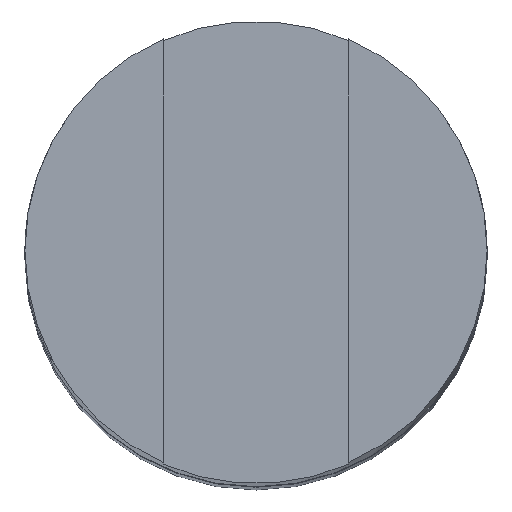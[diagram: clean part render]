
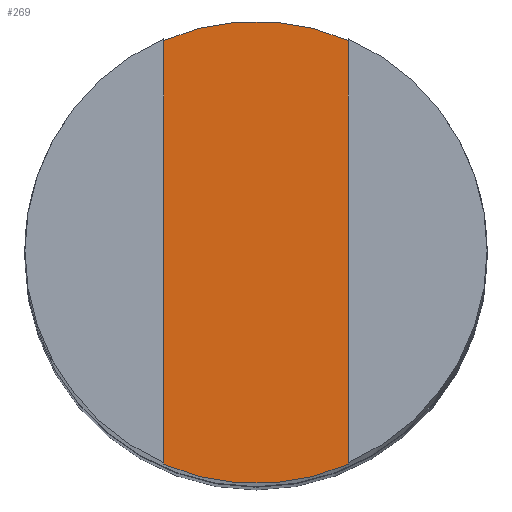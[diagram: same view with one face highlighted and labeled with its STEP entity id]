
A CAD part, top view. The second image highlights one B-rep face of the part: STEP entity #269.
In plain terms, the highlighted planar face has unit normal (0, 0, 1).
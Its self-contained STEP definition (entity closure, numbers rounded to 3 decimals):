
#79 = LINE ( 'NONE', #129, #558 ) ;
#86 = VERTEX_POINT ( 'NONE', #900 ) ;
#88 = DIRECTION ( 'NONE',  ( 0., 0., -1. ) ) ;
#129 = CARTESIAN_POINT ( 'NONE',  ( -1., 4.988, -10. ) ) ;
#131 = ORIENTED_EDGE ( 'NONE', *, *, #944, .F. ) ;
#165 = DIRECTION ( 'NONE',  ( 0., 0., -1. ) ) ;
#166 = ORIENTED_EDGE ( 'NONE', *, *, #223, .T. ) ;
#182 = DIRECTION ( 'NONE',  ( 0., 0., 1. ) ) ;
#223 = EDGE_CURVE ( 'NONE', #86, #335, #400, .T. ) ;
#262 = ORIENTED_EDGE ( 'NONE', *, *, #1184, .T. ) ;
#269 = ADVANCED_FACE ( 'NONE', ( #685 ), #308, .T. ) ;
#272 = CARTESIAN_POINT ( 'NONE',  ( 0., 0., -10. ) ) ;
#306 = AXIS2_PLACEMENT_3D ( 'NONE', #368, #165, #568 ) ;
#308 = PLANE ( 'NONE',  #385 ) ;
#335 = VERTEX_POINT ( 'NONE', #763 ) ;
#368 = CARTESIAN_POINT ( 'NONE',  ( 0., 0., -10. ) ) ;
#377 = CARTESIAN_POINT ( 'NONE',  ( 0., 0., -10. ) ) ;
#385 = AXIS2_PLACEMENT_3D ( 'NONE', #377, #182, #1214 ) ;
#392 = ORIENTED_EDGE ( 'NONE', *, *, #969, .F. ) ;
#400 = LINE ( 'NONE', #1161, #757 ) ;
#418 = CARTESIAN_POINT ( 'NONE',  ( -1., -2.291, -10. ) ) ;
#456 = DIRECTION ( 'NONE',  ( 1., 0., 0. ) ) ;
#509 = DIRECTION ( 'NONE',  ( 0., 1., 0. ) ) ;
#558 = VECTOR ( 'NONE', #1091, 1000. ) ;
#568 = DIRECTION ( 'NONE',  ( 1., 0., 0. ) ) ;
#685 = FACE_OUTER_BOUND ( 'NONE', #804, .T. ) ;
#757 = VECTOR ( 'NONE', #509, 1000. ) ;
#763 = CARTESIAN_POINT ( 'NONE',  ( 1., 2.291, -10. ) ) ;
#797 = VERTEX_POINT ( 'NONE', #418 ) ;
#804 = EDGE_LOOP ( 'NONE', ( #166, #131, #262, #392 ) ) ;
#832 = AXIS2_PLACEMENT_3D ( 'NONE', #272, #88, #456 ) ;
#870 = VERTEX_POINT ( 'NONE', #1113 ) ;
#900 = CARTESIAN_POINT ( 'NONE',  ( 1., -2.291, -10. ) ) ;
#917 = CIRCLE ( 'NONE', #832, 2.5 ) ;
#944 = EDGE_CURVE ( 'NONE', #870, #335, #1168, .T. ) ;
#969 = EDGE_CURVE ( 'NONE', #86, #797, #917, .T. ) ;
#1091 = DIRECTION ( 'NONE',  ( 0., -1., 0. ) ) ;
#1113 = CARTESIAN_POINT ( 'NONE',  ( -1., 2.291, -10. ) ) ;
#1161 = CARTESIAN_POINT ( 'NONE',  ( 1., 4.988, -10. ) ) ;
#1168 = CIRCLE ( 'NONE', #306, 2.5 ) ;
#1184 = EDGE_CURVE ( 'NONE', #870, #797, #79, .T. ) ;
#1214 = DIRECTION ( 'NONE',  ( 1., 0., 0. ) ) ;
